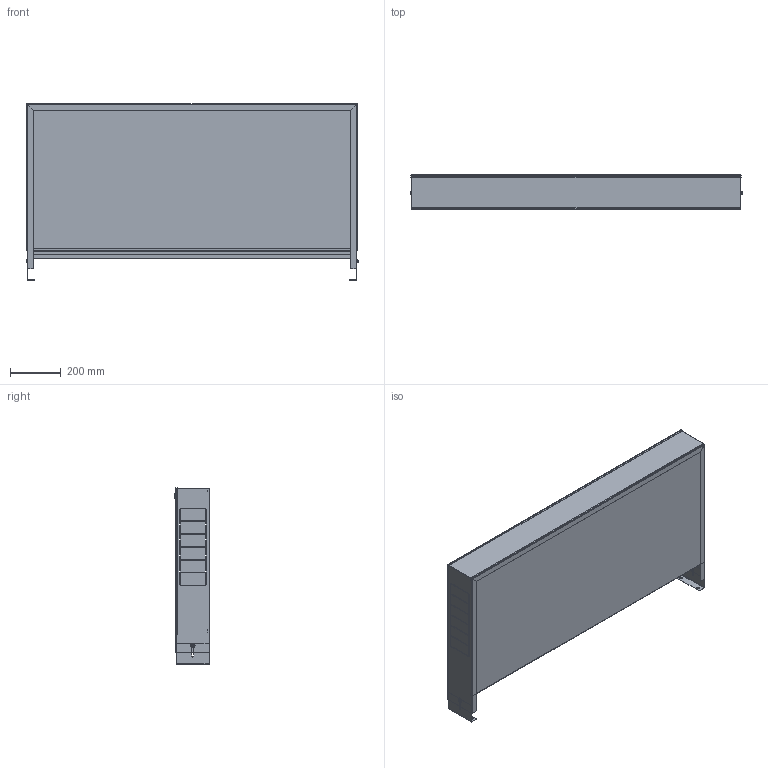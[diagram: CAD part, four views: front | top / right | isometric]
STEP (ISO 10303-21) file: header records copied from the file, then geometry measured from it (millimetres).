
FILE_DESCRIPTION(('TFLEX Exchange Step'),'2;1');
FILE_NAME('Manifold cabinet VTc.541.D.07 Valtec.stp', '2023-10-11T14:18:18+03:00',('denis'),('Unknown organisation'),'TFLEX Exchange 2023.0','T-FLEX CAD','Unknown authorisation');
FILE_SCHEMA( ('AUTOMOTIVE_DESIGN { 1 0 10303 214 1 1 1 1 }') );
Length unit declared in the file: millimetre
Products named in the file (1): Nodes
Bounding box: 1309 x 139.9 x 695 mm (x, y, z)
Volume: 1709668.9 mm3; surface area: 4170714.4 mm2
Topology: 9 solids, 10 shells, 504 faces, 1335 edges, 859 vertices
Faces by surface type: plane 372, cylinder 87, cone 31, bspline 12, torus 2
Full cylindrical faces by diameter (mm): 6 x4, 6.4 x2, 7 x2, 10 x5, 12 x1, 16 x1, 18 x2, 20 x2
Entity records: 18079 total; most frequent: CARTESIAN_POINT 5474, ORIENTED_EDGE 2670, DIRECTION 2391, EDGE_CURVE 1335, VECTOR 1009, LINE 1009, VERTEX_POINT 859, AXIS2_PLACEMENT_3D 691
